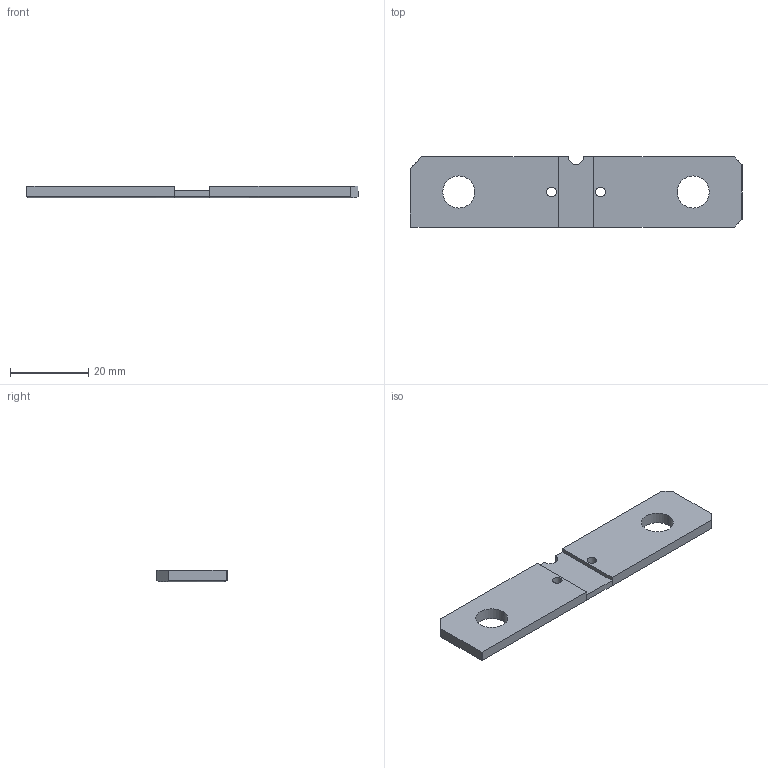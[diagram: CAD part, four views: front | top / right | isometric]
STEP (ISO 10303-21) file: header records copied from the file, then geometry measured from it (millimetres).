
FILE_DESCRIPTION (( 'STEP AP203' ), '1' );
FILE_NAME ('WSBS 8518-M3 100焜HM.STEP', '2017-04-06T19:26:37', ( '' ), ( '' ), 'SwSTEP 2.0', 'SolidWorks 2016', '' );
FILE_SCHEMA (( 'CONFIG_CONTROL_DESIGN' ));
Length unit declared in the file: inch
Products named in the file (2): WSBS 8518-M3 100焜HM
Bounding box: 84.99 x 17.98 x 3 mm (x, y, z)
Volume: 4007.2 mm3; surface area: 3566.8 mm2
Topology: 1 solids, 1 shells, 39 faces, 105 edges, 70 vertices
Faces by surface type: plane 21, cylinder 18
Entity records: 1408 total; most frequent: CARTESIAN_POINT 263, ORIENTED_EDGE 210, DIRECTION 200, EDGE_CURVE 105, VERTEX_POINT 70, AXIS2_PLACEMENT_3D 67, LINE 66, VECTOR 66
